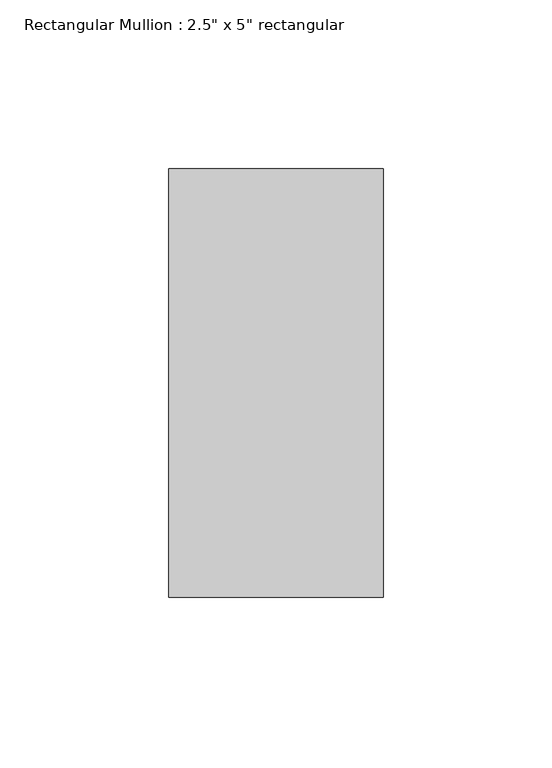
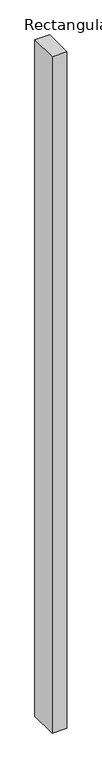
"""IFC4 building model written with IfcOpenShell, lengths in millimetres: member geometry."""

from ifc_helpers import new_model, si_unit, frame, origin, place, context, project, spatial, polyline, outline, extrude, source, transform, mapped, element, save


def member_080aa8fc(model_context):
    return source(origin(), model_context, "Body", "SweptSolid", [
        extrude(outline(polyline([(31.75, 63.5), (31.75, -63.5), (-31.75, -63.5), (-31.75, 63.5), (31.75, 63.5)])), frame((0.0, 0.0, -3067.05), z_axis=(0.0, 0.0, 1.0), x_axis=(1.0, 0.0, 0.0)), (0.0, 0.0, 1.0), 3067.05),
    ])


if __name__ == "__main__":
    model = new_model("IFC4")
    model_context = context("Model", 3, world=origin())
    ifc_project = project(units=[si_unit("LENGTHUNIT", "METRE", prefix="MILLI")], contexts=[model_context])
    site = spatial("IfcSite", under=ifc_project)
    building = spatial("IfcBuilding", under=site)
    placement = place(None, origin())
    member_shape = member_080aa8fc(model_context)
    element("IfcMember", 1, ObjectType="Rectangular Mullion : 2.5\" x 5\" rectangular", at=placement, inside=building, context=model_context, shape_type="MappedRepresentation", body=[
        mapped(member_shape, transform((0.0, 0.0, 0.0), x_axis=(1.0, 0.0, 0.0), y_axis=(0.0, 1.0, 0.0), z_axis=(0.0, 0.0, 1.0))),
    ])
    save(model, "model.ifc")
